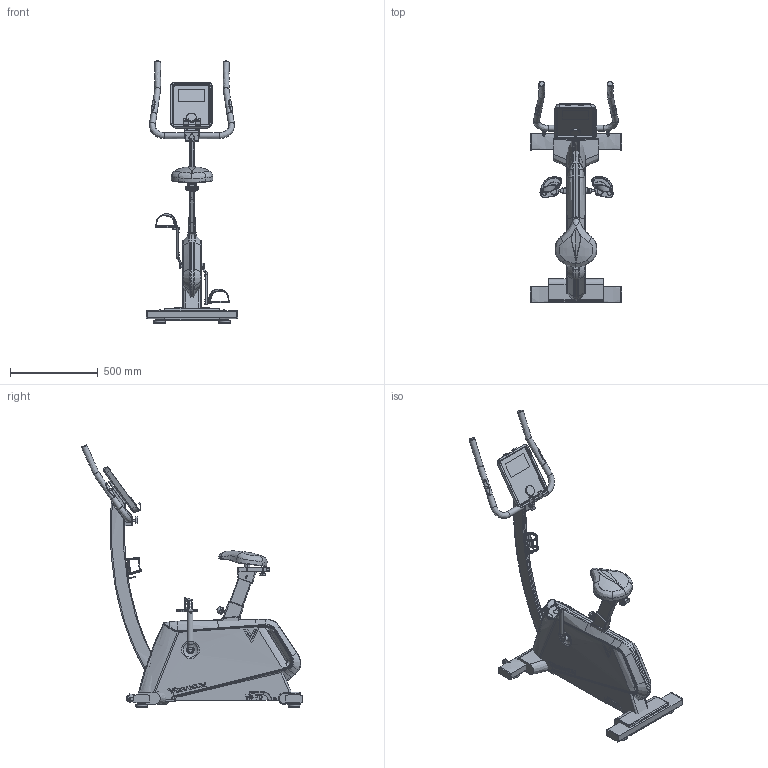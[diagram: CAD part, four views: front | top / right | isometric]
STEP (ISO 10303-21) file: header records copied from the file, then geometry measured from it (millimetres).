
FILE_DESCRIPTION(('HOOPS Exchange Step'),'2;1');
FILE_NAME('D:\Área de trabalho\VB70\STEP\VB-70.stp','2025-06-18T15:40:19-03:00',('Brun0'),('Unknown organisation'),'HOOPS Exchange 2024.2','HOOPS Exchange','Unknown authorisation');
FILE_SCHEMA( ('AP203_CONFIGURATION_CONTROLLED_3D_DESIGN_OF_MECHANICAL_PARTS_AND_ASSEMBLIES_MIM_LF') );
Length unit declared in the file: millimetre
Products named in the file (6): 0; root
Assembly tree (5 placements, depth 5):
  root
    0
    0
      0
        0
          0
Bounding box: 520.92 x 1257.02 x 1491.05 mm (x, y, z)
Topology: 101 solids, 151 shells, 2674 faces, 6917 edges, 4419 vertices
Faces by surface type: bspline 2674
Entity records: 328053 total; most frequent: CARTESIAN_POINT 285986, ORIENTED_EDGE 13115, EDGE_CURVE 6826, B_SPLINE_CURVE_WITH_KNOTS 6305, VERTEX_POINT 4419, EDGE_LOOP 2800, FACE_BOUND 2800, ADVANCED_FACE 2674
